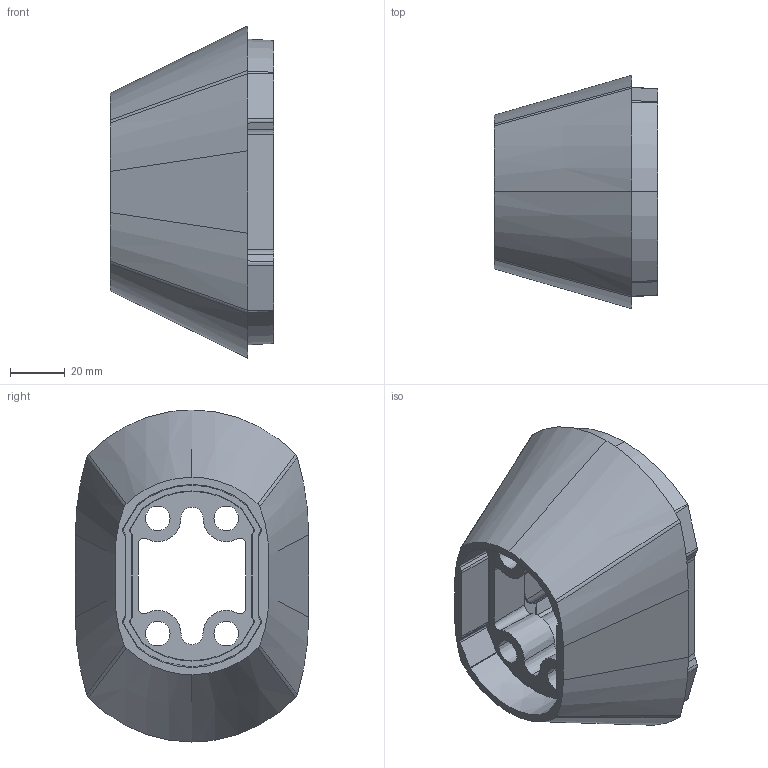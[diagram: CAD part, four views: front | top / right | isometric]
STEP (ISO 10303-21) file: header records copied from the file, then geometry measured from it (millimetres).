
FILE_DESCRIPTION((''),'2;1');
FILE_NAME('60-95-50_65','2024-03-06T18:28:02',('Administrator'),(''),'CREO PARAMETRIC BY PTC INC, 2019010','CREO PARAMETRIC BY PTC INC, 2019010','');
FILE_SCHEMA(('CONFIG_CONTROL_DESIGN','SHAPE_APPEARANCE_LAYERS_GROUPS'));
Length unit declared in the file: millimetre
Products named in the file (1): 60-95-50_65
Bounding box: 59.8 x 85.43 x 121.61 mm (x, y, z)
Volume: 158809.8 mm3; surface area: 45412 mm2
Topology: 1 solids, 1 shells, 239 faces, 614 edges, 380 vertices
Faces by surface type: bspline 68, plane 56, cone 52, cylinder 44, sphere 15, torus 4
Entity records: 15745 total; most frequent: CARTESIAN_POINT 9236, COLOUR_RGB 1251, ORIENTED_EDGE 1218, DIRECTION 858, EDGE_CURVE 609, VERTEX_POINT 380, AXIS2_PLACEMENT_3D 318, EDGE_LOOP 257
